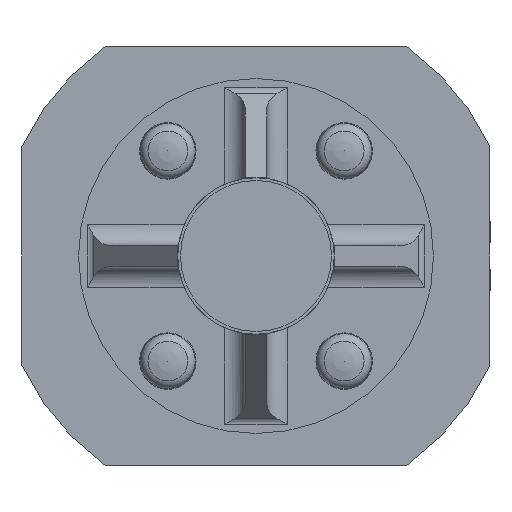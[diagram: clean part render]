
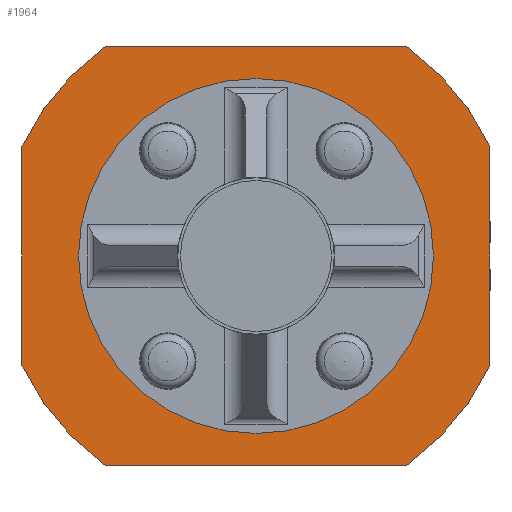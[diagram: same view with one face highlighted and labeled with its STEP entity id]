
A CAD part, front view. The second image highlights one B-rep face of the part: STEP entity #1964.
In plain terms, the highlighted planar face has unit normal (0, -1, 0).
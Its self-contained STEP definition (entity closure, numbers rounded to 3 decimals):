
#81=CIRCLE('',#2134,32.);
#84=CIRCLE('',#2139,32.);
#87=CIRCLE('',#2144,32.);
#90=CIRCLE('',#2149,32.);
#91=CIRCLE('',#2152,22.);
#430=ORIENTED_EDGE('',*,*,#896,.F.);
#431=ORIENTED_EDGE('',*,*,#871,.F.);
#432=ORIENTED_EDGE('',*,*,#895,.F.);
#433=ORIENTED_EDGE('',*,*,#892,.F.);
#434=ORIENTED_EDGE('',*,*,#889,.F.);
#435=ORIENTED_EDGE('',*,*,#885,.F.);
#436=ORIENTED_EDGE('',*,*,#882,.F.);
#437=ORIENTED_EDGE('',*,*,#878,.F.);
#438=ORIENTED_EDGE('',*,*,#875,.F.);
#871=EDGE_CURVE('',#1090,#1091,#81,.T.);
#875=EDGE_CURVE('',#1091,#1094,#1273,.T.);
#878=EDGE_CURVE('',#1094,#1096,#84,.T.);
#882=EDGE_CURVE('',#1096,#1099,#1277,.T.);
#885=EDGE_CURVE('',#1099,#1101,#87,.T.);
#889=EDGE_CURVE('',#1101,#1104,#1281,.T.);
#892=EDGE_CURVE('',#1104,#1106,#90,.T.);
#895=EDGE_CURVE('',#1106,#1090,#1285,.T.);
#896=EDGE_CURVE('',#1107,#1107,#91,.F.);
#1090=VERTEX_POINT('',#3278);
#1091=VERTEX_POINT('',#3280);
#1094=VERTEX_POINT('',#3288);
#1096=VERTEX_POINT('',#3294);
#1099=VERTEX_POINT('',#3302);
#1101=VERTEX_POINT('',#3308);
#1104=VERTEX_POINT('',#3316);
#1106=VERTEX_POINT('',#3322);
#1107=VERTEX_POINT('',#3329);
#1273=LINE('',#3287,#1397);
#1277=LINE('',#3301,#1401);
#1281=LINE('',#3315,#1405);
#1285=LINE('',#3326,#1409);
#1397=VECTOR('',#2546,1000.);
#1401=VECTOR('',#2560,1000.);
#1405=VECTOR('',#2574,1000.);
#1409=VECTOR('',#2586,1000.);
#1476=EDGE_LOOP('',(#430));
#1477=EDGE_LOOP('',(#431,#432,#433,#434,#435,#436,#437,#438));
#1692=FACE_BOUND('',#1476,.T.);
#1693=FACE_BOUND('',#1477,.T.);
#1888=PLANE('',#2151);
#1964=ADVANCED_FACE('',(#1692,#1693),#1888,.F.);
#2134=AXIS2_PLACEMENT_3D('',#3279,#2538,#2539);
#2139=AXIS2_PLACEMENT_3D('',#3293,#2552,#2553);
#2144=AXIS2_PLACEMENT_3D('',#3307,#2566,#2567);
#2149=AXIS2_PLACEMENT_3D('',#3321,#2580,#2581);
#2151=AXIS2_PLACEMENT_3D('',#3327,#2587,#2588);
#2152=AXIS2_PLACEMENT_3D('',#3328,#2589,#2590);
#2538=DIRECTION('',(0.,1.,0.));
#2539=DIRECTION('',(1.,0.,0.));
#2546=DIRECTION('',(0.,0.,1.));
#2552=DIRECTION('',(0.,1.,0.));
#2553=DIRECTION('',(1.,0.,0.));
#2560=DIRECTION('',(1.,0.,0.));
#2566=DIRECTION('',(0.,1.,0.));
#2567=DIRECTION('',(1.,0.,0.));
#2574=DIRECTION('',(0.,0.,-1.));
#2580=DIRECTION('',(0.,1.,0.));
#2581=DIRECTION('',(1.,0.,0.));
#2586=DIRECTION('',(-1.,0.,0.));
#2587=DIRECTION('',(0.,1.,0.));
#2588=DIRECTION('',(0.,0.,1.));
#2589=DIRECTION('',(0.,1.,0.));
#2590=DIRECTION('',(0.,0.,1.));
#3278=CARTESIAN_POINT('',(-18.655,-14.3,-26.));
#3279=CARTESIAN_POINT('',(0.,-14.3,0.));
#3280=CARTESIAN_POINT('',(-29.,-14.3,-13.528));
#3287=CARTESIAN_POINT('',(-29.,-14.3,-13.528));
#3288=CARTESIAN_POINT('',(-29.,-14.3,13.528));
#3293=CARTESIAN_POINT('',(0.,-14.3,0.));
#3294=CARTESIAN_POINT('',(-18.655,-14.3,26.));
#3301=CARTESIAN_POINT('',(-18.655,-14.3,26.));
#3302=CARTESIAN_POINT('',(18.655,-14.3,26.));
#3307=CARTESIAN_POINT('',(0.,-14.3,0.));
#3308=CARTESIAN_POINT('',(29.,-14.3,13.528));
#3315=CARTESIAN_POINT('',(29.,-14.3,13.528));
#3316=CARTESIAN_POINT('',(29.,-14.3,-13.528));
#3321=CARTESIAN_POINT('',(0.,-14.3,0.));
#3322=CARTESIAN_POINT('',(18.655,-14.3,-26.));
#3326=CARTESIAN_POINT('',(18.655,-14.3,-26.));
#3327=CARTESIAN_POINT('',(0.,-14.3,0.));
#3328=CARTESIAN_POINT('',(0.,-14.3,0.));
#3329=CARTESIAN_POINT('',(0.,-14.3,22.));
